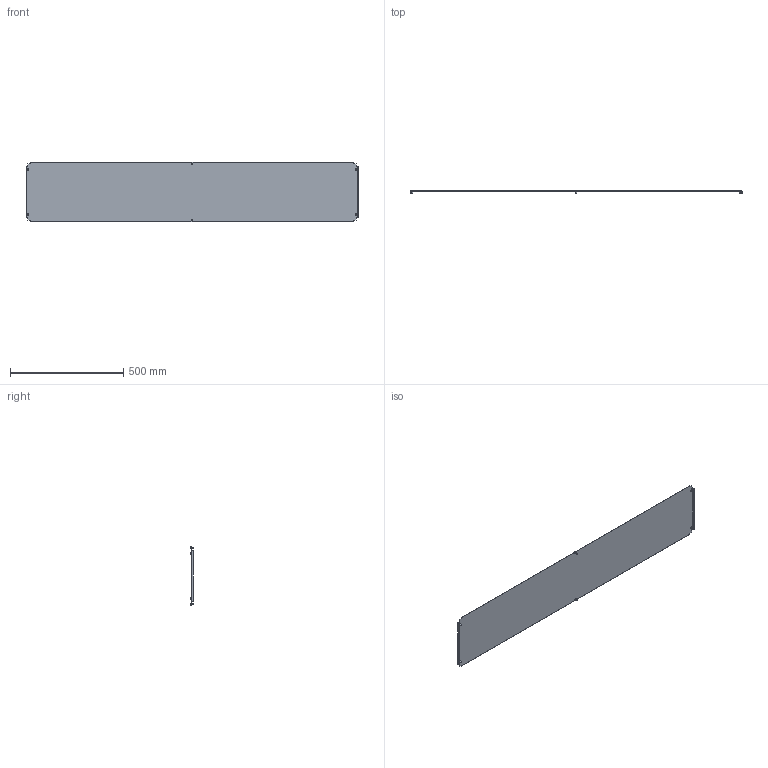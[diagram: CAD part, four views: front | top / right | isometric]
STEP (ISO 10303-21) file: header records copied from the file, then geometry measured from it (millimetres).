
FILE_DESCRIPTION (( 'STEP AP203' ), '1' );
FILE_NAME ('R5N1BP164.STEP', '2025-02-21T14:03:04', ( '' ), ( '' ), 'SwSTEP 2.0', 'SolidWorks 2022', '' );
FILE_SCHEMA (( 'CONFIG_CONTROL_DESIGN' ));
Length unit declared in the file: millimetre
Products named in the file (3): M5x12 DIN 7500 C Torx Zinc_stright; R5N1BP164; RB.1923.00.00.0_-34
Assembly tree (7 placements, depth 2):
  R5N1BP164
    RB.1923.00.00.0_-34
    M5x12 DIN 7500 C Torx Zinc_stright  x6
Bounding box: 1468 x 15.56 x 262 mm (x, y, z)
Volume: 583036 mm3; surface area: 781969.4 mm2
Topology: 7 solids, 7 shells, 166 faces, 384 edges, 238 vertices
Faces by surface type: plane 106, cylinder 24, torus 12, cone 12, sphere 6, bspline 6
Full cylindrical faces by diameter (mm): 5 x6, 9.5 x6
Entity records: 3297 total; most frequent: CARTESIAN_POINT 674, ORIENTED_EDGE 448, DIRECTION 444, EDGE_CURVE 224, VECTOR 180, LINE 180, VERTEX_POINT 150, AXIS2_PLACEMENT_3D 132
